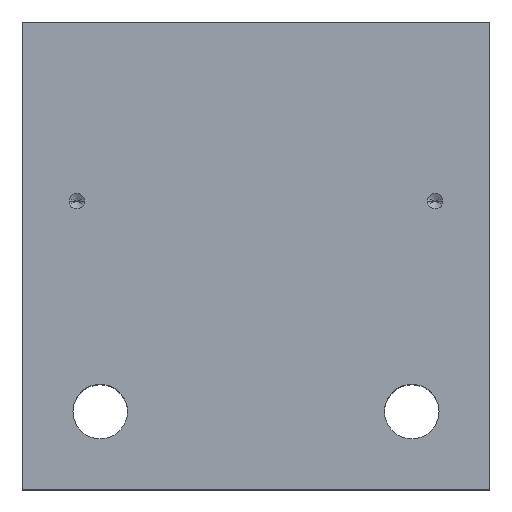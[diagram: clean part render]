
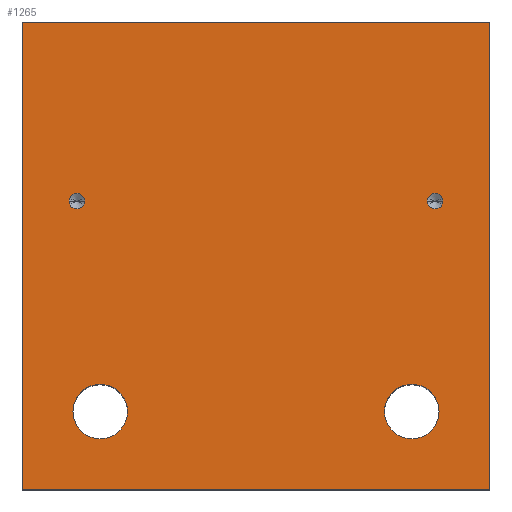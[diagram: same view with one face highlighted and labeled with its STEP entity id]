
A CAD part, top view. The second image highlights one B-rep face of the part: STEP entity #1265.
In plain terms, the highlighted planar face has unit normal (0, 0, 1).
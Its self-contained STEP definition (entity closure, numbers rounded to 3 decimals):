
#18=DIRECTION('',(0.,-1.,0.));
#19=VECTOR('',#18,60.);
#20=CARTESIAN_POINT('',(0.,60.,0.));
#21=LINE('',#20,#19);
#26=DIRECTION('',(-1.,0.,0.));
#27=VECTOR('',#26,60.);
#28=CARTESIAN_POINT('',(60.,60.,0.));
#29=LINE('',#28,#27);
#33=DIRECTION('',(0.,1.,0.));
#34=VECTOR('',#33,60.);
#35=CARTESIAN_POINT('',(60.,0.,0.));
#36=LINE('',#35,#34);
#40=DIRECTION('',(1.,0.,0.));
#41=VECTOR('',#40,60.);
#42=CARTESIAN_POINT('',(0.,0.,0.));
#43=LINE('',#42,#41);
#47=CARTESIAN_POINT('',(10.,10.,0.));
#48=DIRECTION('',(0.,0.,-1.));
#49=DIRECTION('',(-1.,0.,0.));
#50=AXIS2_PLACEMENT_3D('',#47,#48,#49);
#55=CARTESIAN_POINT('',(10.,10.,0.));
#56=DIRECTION('',(0.,0.,-1.));
#57=DIRECTION('',(1.,0.,0.));
#58=AXIS2_PLACEMENT_3D('',#55,#56,#57);
#63=CARTESIAN_POINT('',(50.,10.,0.));
#64=DIRECTION('',(0.,0.,-1.));
#65=DIRECTION('',(-1.,0.,0.));
#66=AXIS2_PLACEMENT_3D('',#63,#64,#65);
#71=CARTESIAN_POINT('',(50.,10.,0.));
#72=DIRECTION('',(0.,0.,-1.));
#73=DIRECTION('',(1.,0.,0.));
#74=AXIS2_PLACEMENT_3D('',#71,#72,#73);
#79=CARTESIAN_POINT('',(7.,37.,0.));
#80=DIRECTION('',(0.,0.,1.));
#81=DIRECTION('',(-1.,0.,0.));
#82=AXIS2_PLACEMENT_3D('',#79,#80,#81);
#87=CARTESIAN_POINT('',(7.,37.,0.));
#88=DIRECTION('',(0.,0.,1.));
#89=DIRECTION('',(1.,0.,0.));
#90=AXIS2_PLACEMENT_3D('',#87,#88,#89);
#95=CARTESIAN_POINT('',(53.,37.,0.));
#96=DIRECTION('',(0.,0.,1.));
#97=DIRECTION('',(-1.,0.,0.));
#98=AXIS2_PLACEMENT_3D('',#95,#96,#97);
#103=CARTESIAN_POINT('',(53.,37.,0.));
#104=DIRECTION('',(0.,0.,1.));
#105=DIRECTION('',(1.,0.,0.));
#106=AXIS2_PLACEMENT_3D('',#103,#104,#105);
#1080=CARTESIAN_POINT('',(0.,60.,0.));
#1081=CARTESIAN_POINT('',(0.,0.,0.));
#1082=VERTEX_POINT('',#1080);
#1083=VERTEX_POINT('',#1081);
#1084=CARTESIAN_POINT('',(60.,0.,0.));
#1085=VERTEX_POINT('',#1084);
#1086=CARTESIAN_POINT('',(60.,60.,0.));
#1087=VERTEX_POINT('',#1086);
#1096=CARTESIAN_POINT('',(6.5,10.,0.));
#1097=CARTESIAN_POINT('',(13.5,10.,0.));
#1098=VERTEX_POINT('',#1096);
#1099=VERTEX_POINT('',#1097);
#1104=CARTESIAN_POINT('',(46.5,10.,0.));
#1105=CARTESIAN_POINT('',(53.5,10.,0.));
#1106=VERTEX_POINT('',#1104);
#1107=VERTEX_POINT('',#1105);
#1118=CARTESIAN_POINT('',(6.,37.,0.));
#1119=VERTEX_POINT('',#1118);
#1120=CARTESIAN_POINT('',(8.,37.,0.));
#1121=VERTEX_POINT('',#1120);
#1128=CARTESIAN_POINT('',(52.,37.,0.));
#1129=CARTESIAN_POINT('',(54.,37.,0.));
#1130=VERTEX_POINT('',#1128);
#1131=VERTEX_POINT('',#1129);
#1226=CARTESIAN_POINT('',(0.,0.,0.));
#1227=DIRECTION('',(0.,0.,1.));
#1228=DIRECTION('',(1.,0.,0.));
#1229=AXIS2_PLACEMENT_3D('',#1226,#1227,#1228);
#1230=PLANE('',#1229);
#1232=ORIENTED_EDGE('',*,*,#1231,.F.);
#1234=ORIENTED_EDGE('',*,*,#1233,.F.);
#1236=ORIENTED_EDGE('',*,*,#1235,.F.);
#1238=ORIENTED_EDGE('',*,*,#1237,.F.);
#1239=EDGE_LOOP('',(#1232,#1234,#1236,#1238));
#1240=FACE_OUTER_BOUND('',#1239,.F.);
#1242=ORIENTED_EDGE('',*,*,#1241,.F.);
#1244=ORIENTED_EDGE('',*,*,#1243,.F.);
#1245=EDGE_LOOP('',(#1242,#1244));
#1246=FACE_BOUND('',#1245,.F.);
#1248=ORIENTED_EDGE('',*,*,#1247,.F.);
#1250=ORIENTED_EDGE('',*,*,#1249,.F.);
#1251=EDGE_LOOP('',(#1248,#1250));
#1252=FACE_BOUND('',#1251,.F.);
#1254=ORIENTED_EDGE('',*,*,#1253,.T.);
#1256=ORIENTED_EDGE('',*,*,#1255,.T.);
#1257=EDGE_LOOP('',(#1254,#1256));
#1258=FACE_BOUND('',#1257,.F.);
#1260=ORIENTED_EDGE('',*,*,#1259,.T.);
#1262=ORIENTED_EDGE('',*,*,#1261,.T.);
#1263=EDGE_LOOP('',(#1260,#1262));
#1264=FACE_BOUND('',#1263,.F.);
#51=CIRCLE('',#50,3.5);
#59=CIRCLE('',#58,3.5);
#67=CIRCLE('',#66,3.5);
#75=CIRCLE('',#74,3.5);
#83=CIRCLE('',#82,1.);
#91=CIRCLE('',#90,1.);
#99=CIRCLE('',#98,1.);
#107=CIRCLE('',#106,1.);
#1231=EDGE_CURVE('',#1082,#1083,#21,.T.);
#1233=EDGE_CURVE('',#1087,#1082,#29,.T.);
#1235=EDGE_CURVE('',#1085,#1087,#36,.T.);
#1237=EDGE_CURVE('',#1083,#1085,#43,.T.);
#1241=EDGE_CURVE('',#1098,#1099,#51,.T.);
#1243=EDGE_CURVE('',#1099,#1098,#59,.T.);
#1247=EDGE_CURVE('',#1106,#1107,#67,.T.);
#1249=EDGE_CURVE('',#1107,#1106,#75,.T.);
#1253=EDGE_CURVE('',#1119,#1121,#83,.T.);
#1255=EDGE_CURVE('',#1121,#1119,#91,.T.);
#1259=EDGE_CURVE('',#1130,#1131,#99,.T.);
#1261=EDGE_CURVE('',#1131,#1130,#107,.T.);
#1265=ADVANCED_FACE('',(#1240,#1246,#1252,#1258,#1264),#1230,.T.);
